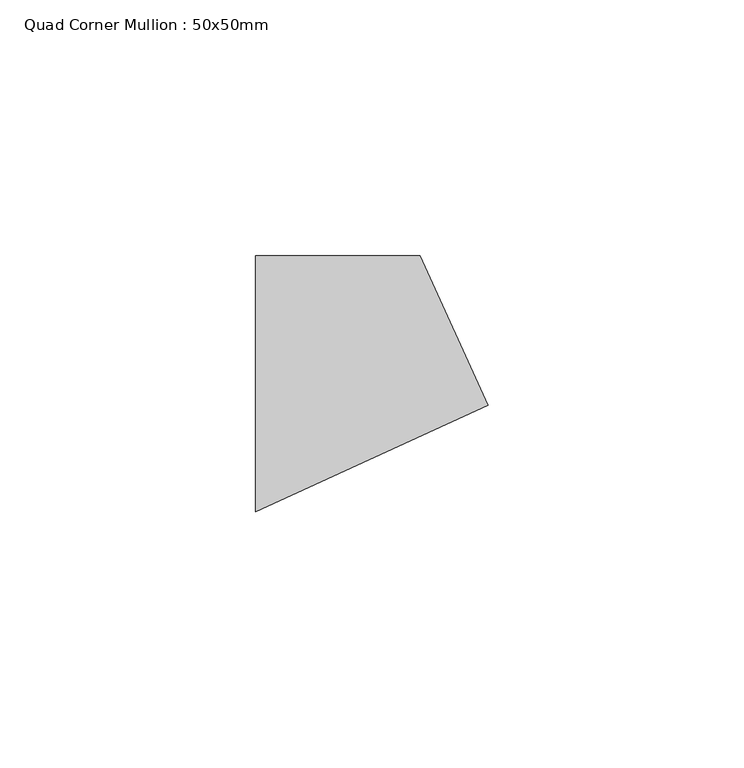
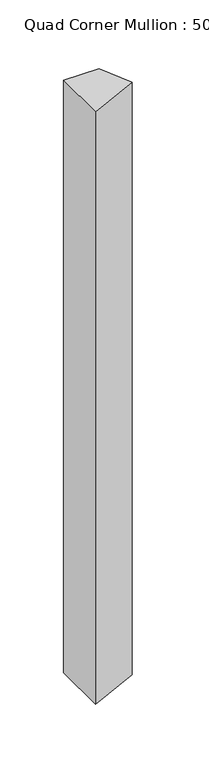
"""IFC4 building model written with IfcOpenShell, lengths in millimetres: member geometry, Quad Corner Mullion : 50x50mm."""

from ifc_helpers import new_model, si_unit, frame, origin, place, context, project, spatial, polyline, outline, extrude, source, transform, mapped, element, save


def quad_corner_mullion_50x50mm_49678f54(model_context):
    return source(origin(), model_context, "Body", "SweptSolid", [
        extrude(outline(polyline([(29.4125559, -4.1926582), (-16.0523154, -25.0), (-16.0523154, 25.0), (16.0523154, 25.0), (29.4125559, -4.1926582)])), frame((0.0, 0.0, -567.8252723), z_axis=(0.0, 0.0, 1.0), x_axis=(1.0, 0.0, 0.0)), (0.0, 0.0, 1.0), 567.8252723),
    ])


if __name__ == "__main__":
    model = new_model("IFC4")
    model_context = context("Model", 3, world=origin())
    ifc_project = project(units=[si_unit("LENGTHUNIT", "METRE", prefix="MILLI")], contexts=[model_context])
    site = spatial("IfcSite", under=ifc_project)
    building = spatial("IfcBuilding", under=site)
    placement = place(None, origin())
    quad_corner_mullion_50x50mm_shape = quad_corner_mullion_50x50mm_49678f54(model_context)
    element("IfcMember", 1, ObjectType="Quad Corner Mullion : 50x50mm", at=placement, inside=building, context=model_context, shape_type="MappedRepresentation", body=[
        mapped(quad_corner_mullion_50x50mm_shape, transform((0.0, 0.0, 0.0), x_axis=(1.0, 0.0, 0.0), y_axis=(0.0, 1.0, 0.0), z_axis=(0.0, 0.0, 1.0))),
    ])
    save(model, "model.ifc")
